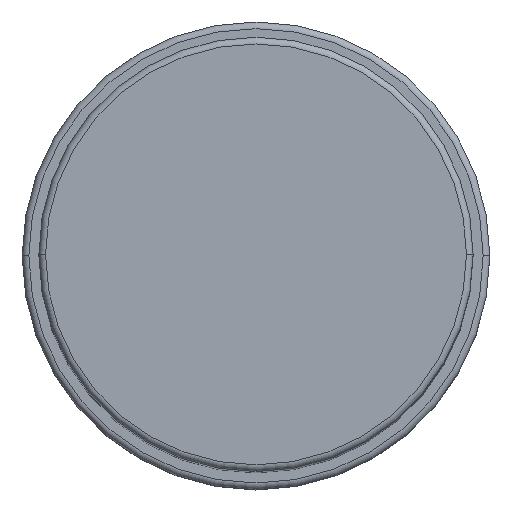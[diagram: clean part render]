
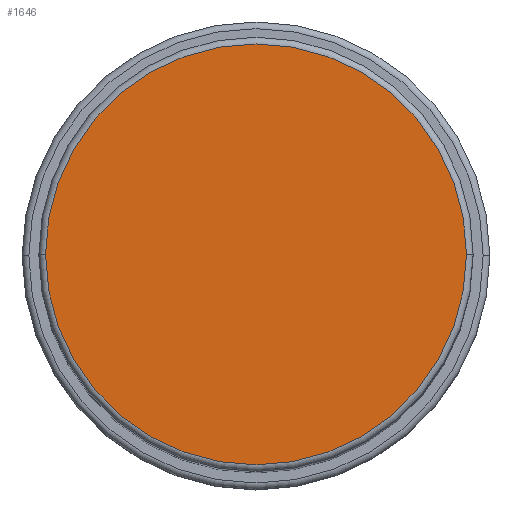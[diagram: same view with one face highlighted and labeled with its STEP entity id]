
A CAD part, top view. The second image highlights one B-rep face of the part: STEP entity #1646.
In plain terms, the highlighted planar face has unit normal (0, 0, 1).
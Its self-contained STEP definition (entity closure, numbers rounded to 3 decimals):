
#110 = DIRECTION ( 'NONE',  ( 0., 0., 1. ) ) ;
#147 = AXIS2_PLACEMENT_3D ( 'NONE', #1813, #110, #266 ) ;
#191 = CARTESIAN_POINT ( 'NONE',  ( 31.5, 0., 138. ) ) ;
#204 = DIRECTION ( 'NONE',  ( 1., 0., 0. ) ) ;
#244 = EDGE_CURVE ( 'NONE', #683, #1451, #1817, .T. ) ;
#266 = DIRECTION ( 'NONE',  ( 1., 0., 0. ) ) ;
#372 = ORIENTED_EDGE ( 'NONE', *, *, #244, .T. ) ;
#454 = PLANE ( 'NONE',  #1624 ) ;
#681 = CARTESIAN_POINT ( 'NONE',  ( 0., 0., 138. ) ) ;
#683 = VERTEX_POINT ( 'NONE', #1647 ) ;
#920 = EDGE_CURVE ( 'NONE', #1451, #683, #1724, .T. ) ;
#930 = FACE_OUTER_BOUND ( 'NONE', #1598, .T. ) ;
#962 = ORIENTED_EDGE ( 'NONE', *, *, #920, .T. ) ;
#1451 = VERTEX_POINT ( 'NONE', #191 ) ;
#1461 = DIRECTION ( 'NONE',  ( 0., 0., 1. ) ) ;
#1542 = CARTESIAN_POINT ( 'NONE',  ( 0., 0., 138. ) ) ;
#1559 = DIRECTION ( 'NONE',  ( 0., 0., 1. ) ) ;
#1598 = EDGE_LOOP ( 'NONE', ( #962, #372 ) ) ;
#1624 = AXIS2_PLACEMENT_3D ( 'NONE', #1542, #1559, #1993 ) ;
#1646 = ADVANCED_FACE ( 'NONE', ( #930 ), #454, .T. ) ;
#1647 = CARTESIAN_POINT ( 'NONE',  ( -31.5, 0., 138. ) ) ;
#1724 = CIRCLE ( 'NONE', #147, 31.5 ) ;
#1813 = CARTESIAN_POINT ( 'NONE',  ( 0., 0., 138. ) ) ;
#1817 = CIRCLE ( 'NONE', #1945, 31.5 ) ;
#1945 = AXIS2_PLACEMENT_3D ( 'NONE', #681, #1461, #204 ) ;
#1993 = DIRECTION ( 'NONE',  ( 1., 0., 0. ) ) ;
